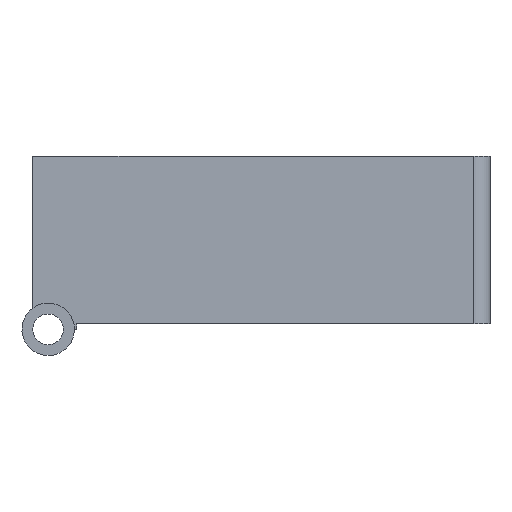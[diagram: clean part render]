
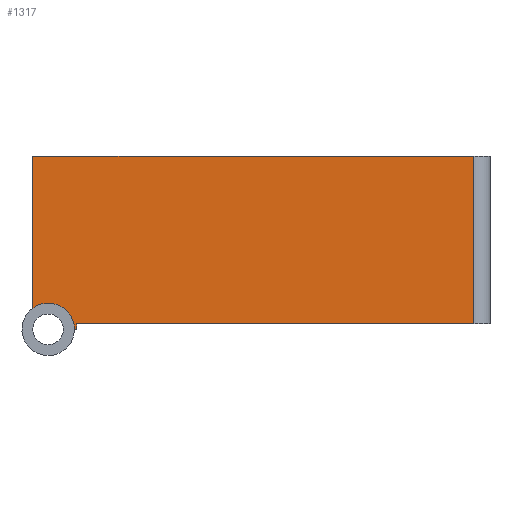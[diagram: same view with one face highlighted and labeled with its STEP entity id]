
A CAD part, left-side view. The second image highlights one B-rep face of the part: STEP entity #1317.
In plain terms, the highlighted planar face has unit normal (-1, 0, 0).
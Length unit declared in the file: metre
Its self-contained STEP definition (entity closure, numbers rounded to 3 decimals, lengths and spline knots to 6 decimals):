
#24=CIRCLE('',#1402,0.0048);
#129=ORIENTED_EDGE('',*,*,#498,.T.);
#130=ORIENTED_EDGE('',*,*,#499,.T.);
#131=ORIENTED_EDGE('',*,*,#485,.F.);
#132=ORIENTED_EDGE('',*,*,#496,.T.);
#133=ORIENTED_EDGE('',*,*,#500,.F.);
#134=ORIENTED_EDGE('',*,*,#501,.T.);
#135=ORIENTED_EDGE('',*,*,#502,.F.);
#485=EDGE_CURVE('',#666,#667,#801,.T.);
#496=EDGE_CURVE('',#666,#675,#810,.T.);
#498=EDGE_CURVE('',#676,#677,#812,.T.);
#499=EDGE_CURVE('',#677,#667,#813,.F.);
#500=EDGE_CURVE('',#678,#675,#24,.T.);
#501=EDGE_CURVE('',#678,#679,#814,.T.);
#502=EDGE_CURVE('',#676,#679,#815,.T.);
#666=VERTEX_POINT('',#1944);
#667=VERTEX_POINT('',#1945);
#675=VERTEX_POINT('',#1964);
#676=VERTEX_POINT('',#1969);
#677=VERTEX_POINT('',#1970);
#678=VERTEX_POINT('',#1973);
#679=VERTEX_POINT('',#1975);
#801=LINE('',#1943,#975);
#810=LINE('',#1965,#984);
#812=LINE('',#1968,#986);
#813=LINE('',#1971,#987);
#814=LINE('',#1974,#988);
#815=LINE('',#1976,#989);
#975=VECTOR('',#1561,1.);
#984=VECTOR('',#1576,1.);
#986=VECTOR('',#1580,1.);
#987=VECTOR('',#1581,1.);
#988=VECTOR('',#1584,1.);
#989=VECTOR('',#1585,1.);
#1105=EDGE_LOOP('',(#129,#130,#131,#132,#133,#134,#135));
#1183=FACE_BOUND('',#1105,.T.);
#1258=PLANE('',#1401);
#1317=ADVANCED_FACE('',(#1183),#1258,.F.);
#1401=AXIS2_PLACEMENT_3D('',#1967,#1578,#1579);
#1402=AXIS2_PLACEMENT_3D('',#1972,#1582,#1583);
#1561=DIRECTION('',(0.,-1.,0.));
#1576=DIRECTION('',(0.,0.,-1.));
#1578=DIRECTION('',(1.,0.,0.));
#1579=DIRECTION('',(0.,1.,0.));
#1580=DIRECTION('',(0.,-1.,0.));
#1581=DIRECTION('',(0.,0.,-1.));
#1582=DIRECTION('',(-1.,0.,0.));
#1583=DIRECTION('',(0.,0.,1.));
#1584=DIRECTION('',(0.,-1.,0.));
#1585=DIRECTION('',(0.,0.,-1.));
#1943=CARTESIAN_POINT('',(-0.05685,-0.04564,0.03165));
#1944=CARTESIAN_POINT('',(-0.05685,-0.0038,0.03165));
#1945=CARTESIAN_POINT('',(-0.05685,-0.08448,0.03165));
#1964=CARTESIAN_POINT('',(-0.05685,-0.0038,0.003899));
#1965=CARTESIAN_POINT('',(-0.05685,-0.0038,0.03315));
#1967=CARTESIAN_POINT('',(-0.05685,-0.04564,0.03315));
#1968=CARTESIAN_POINT('',(-0.05685,-0.04564,0.001));
#1969=CARTESIAN_POINT('',(-0.05685,-0.0118,0.001));
#1970=CARTESIAN_POINT('',(-0.05685,-0.08448,0.001));
#1971=CARTESIAN_POINT('',(-0.05685,-0.08448,0.03165));
#1972=CARTESIAN_POINT('',(-0.05685,-0.0066,0.));
#1973=CARTESIAN_POINT('',(-0.05685,-0.0114,0.));
#1974=CARTESIAN_POINT('',(-0.05685,-0.04564,0.));
#1975=CARTESIAN_POINT('',(-0.05685,-0.0118,0.));
#1976=CARTESIAN_POINT('',(-0.05685,-0.0118,0.001));
